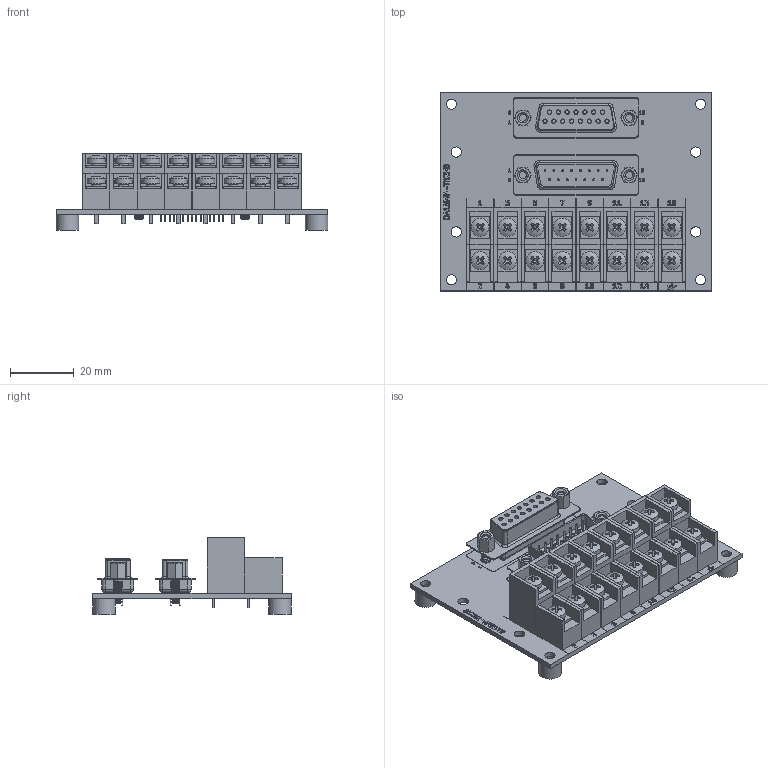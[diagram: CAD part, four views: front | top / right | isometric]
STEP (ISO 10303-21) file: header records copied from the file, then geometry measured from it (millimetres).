
FILE_DESCRIPTION(('FreeCAD Model'),'2;1');
FILE_NAME('C:/ws/KiCad/interface-terminal-converter/dsub15_2row-terminal/latest/dsub15_2row-terminal/step/da15mf-tb2x8_direct_step.step','2020-12-24T22:40:41',('Author'),(''), 'Open CASCADE STEP processor 7.3','FreeCAD','Unknown');
FILE_SCHEMA(('AUTOMOTIVE_DESIGN { 1 0 10303 214 1 1 1 1 }'));
Length unit declared in the file: millimetre
Products named in the file (34): dsub15_2row-terminal_direct; Board_Geoms_66f0; Local_CS_66f0; Pcb_66f0; PCB_Sketch_66f0; botSilks_1649; topSilks_d78f; Step_Models_66f0; Top_66f0; J2_DSUB-15_Male_Vertical_P2.77x2.84mm_MountingHoles_5FC24796; J2_74m9499_5205818-2_5FC24796[2]; J2_74m9499_5205818-2_5FC24796[3]; J1_DSUB-15_Female_Vertical_P2.77x2.84mm_MountingHoles_5FC24755; J1_74m9499_5205818-2_5FC24755[2]; J1_74m9499_5205818-2_5FC24755[3]; TB1_KF8500HL-8.5-1P_5FC240E9; TB1_KF8500HL-8.5-1P_5FC240E9[2]; TB1_KF8500HL-8.5-1P_5FC240E9[3]; TB1_KF8500HL-8.5-1P_5FC240E9[4]; TB1_KF8500HL-8.5-1P_5FC240E9[5]; TB1_KF8500HL-8.5-1P_5FC240E9[6]; TB1_KF8500HL-8.5-1P_5FC240E9[7]; TB1_KF8500HL-8.5-1P_5FC240E9[8]; Step_Virtual_Models_66f0; BotV_66f0; H1_Body_5FC5CE5F; H2_Body_5FC5CE66; H3_Body_5FC5CE6D; H4_Body_5FC5CE74
Assembly tree (53 placements, depth 4):
  dsub15_2row-terminal_direct
    Board_Geoms_66f0
      Local_CS_66f0
      Pcb_66f0
      PCB_Sketch_66f0
      botSilks_1649
      topSilks_d78f
    Step_Models_66f0
      Top_66f0
        J2_DSUB-15_Male_Vertical_P2.77x2.84mm_MountingHoles_5FC24796
        J2_74m9499_5205818-2_5FC24796[2]
        J2_74m9499_5205818-2_5FC24796[3]
        J1_DSUB-15_Female_Vertical_P2.77x2.84mm_MountingHoles_5FC24755
        J1_74m9499_5205818-2_5FC24755[2]
        J1_74m9499_5205818-2_5FC24755[3]
        TB1_KF8500HL-8.5-1P_5FC240E9
        TB1_KF8500HL-8.5-1P_5FC240E9[2]
        TB1_KF8500HL-8.5-1P_5FC240E9[3]
        TB1_KF8500HL-8.5-1P_5FC240E9[4]
        TB1_KF8500HL-8.5-1P_5FC240E9[5]
        TB1_KF8500HL-8.5-1P_5FC240E9[6]
        TB1_KF8500HL-8.5-1P_5FC240E9[7]
        TB1_KF8500HL-8.5-1P_5FC240E9[8]
    Step_Virtual_Models_66f0
      BotV_66f0
        H1_Body_5FC5CE5F
        H2_Body_5FC5CE66
        H3_Body_5FC5CE6D
        H4_Body_5FC5CE74
  Step_Models_66f0
    Top_66f0
      J2_DSUB-15_Male_Vertical_P2.77x2.84mm_MountingHoles_5FC24796
      J2_74m9499_5205818-2_5FC24796[2]
      J2_74m9499_5205818-2_5FC24796[3]
      J1_DSUB-15_Female_Vertical_P2.77x2.84mm_MountingHoles_5FC24755
      J1_74m9499_5205818-2_5FC24755[2]
      J1_74m9499_5205818-2_5FC24755[3]
      TB1_KF8500HL-8.5-1P_5FC240E9
      TB1_KF8500HL-8.5-1P_5FC240E9[2]
      TB1_KF8500HL-8.5-1P_5FC240E9[3]
      TB1_KF8500HL-8.5-1P_5FC240E9[4]
      TB1_KF8500HL-8.5-1P_5FC240E9[5]
      TB1_KF8500HL-8.5-1P_5FC240E9[6]
      TB1_KF8500HL-8.5-1P_5FC240E9[7]
      TB1_KF8500HL-8.5-1P_5FC240E9[8]
  Step_Virtual_Models_66f0
    BotV_66f0
      H1_Body_5FC5CE5F
      H2_Body_5FC5CE66
      H3_Body_5FC5CE6D
      H4_Body_5FC5CE74
  Board_Geoms_66f0
    Local_CS_66f0
    Pcb_66f0
    PCB_Sketch_66f0
    botSilks_1649
    topSilks_d78f
Bounding box: 85 x 62 x 24.1 mm (x, y, z)
Volume: 64726.5 mm3; surface area: 71135.8 mm2
Topology: 170 solids, 442 shells, 3594 faces, 46446 edges, 43580 vertices
Faces by surface type: plane 2088, cylinder 754, cone 406, revolution 138, bspline 96, torus 64, sphere 48
Full cylindrical faces by diameter (mm): 0.3 x60, 0.6 x60, 1 x60, 1.2 x30, 1.5 x32, 2.5 x32, 3 x32, 3.2 x72, 5.6 x32, 7 x8
Entity records: 228179 total; most frequent: CARTESIAN_POINT 60719, DIRECTION 28057, ORIENTED_EDGE 27096, EDGE_CURVE 23181, VERTEX_POINT 21783, LINE 21178, VECTOR 21178, AXIS2_PLACEMENT_3D 3405
